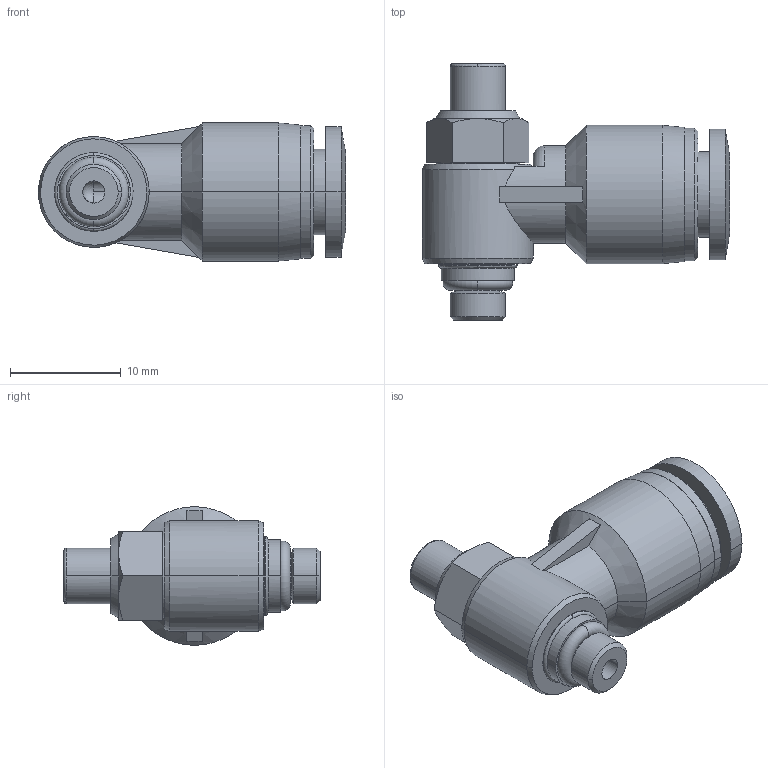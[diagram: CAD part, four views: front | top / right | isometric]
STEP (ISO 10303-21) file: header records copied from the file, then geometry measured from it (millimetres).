
FILE_DESCRIPTION (( 'STEP AP203' ), '1' );
FILE_NAME ('SCLF06-M5.STEP', '2020-05-13T17:30:25', ( '' ), ( '' ), 'SwSTEP 2.0', 'SolidWorks 2019', '' );
FILE_SCHEMA (( 'CONFIG_CONTROL_DESIGN' ));
Length unit declared in the file: millimetre
Products named in the file (1): SCLF06-M5
Bounding box: 27.75 x 23.15 x 12.48 mm (x, y, z)
Surface area: 2134.8 mm2 (no closed solid volume)
Topology: 0 solids, 4 shells, 124 faces, 295 edges, 185 vertices
Faces by surface type: cylinder 39, plane 33, cone 31, torus 11, bspline 9, sphere 1
Entity records: 5626 total; most frequent: CARTESIAN_POINT 3186, ORIENTED_EDGE 580, DIRECTION 311, EDGE_CURVE 292, B_SPLINE_CURVE_WITH_KNOTS 210, VERTEX_POINT 185, EDGE_LOOP 141, AXIS2_PLACEMENT_3D 126
